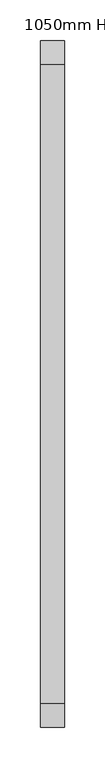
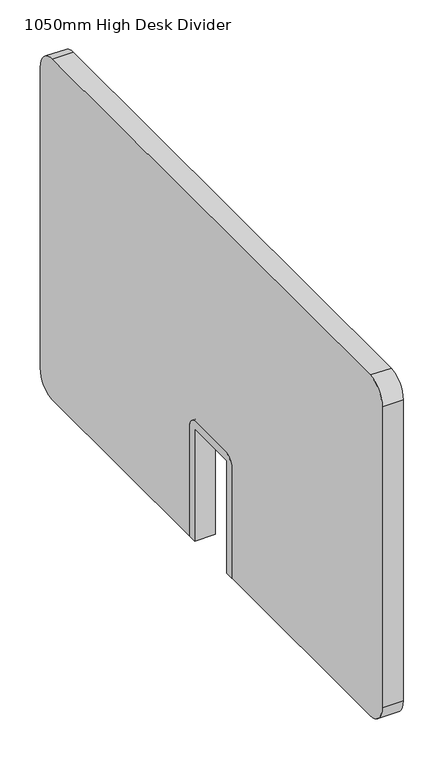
"""IFC4 building model written with IfcOpenShell, lengths in millimetres: furniture geometry, DBLTD_TheSenatorGroup_OffcDsks_Workbase_DeskDivider_FabricScreen : 1050mm High Desk Divider."""

from ifc_helpers import new_model, si_unit, point, frame, frame_2d, origin, place, context, project, spatial, polyline, circle_curve, trimmed, segment, composite_curve, outline, extrude, source, transform, mapped, element, save


def furniture_1050mm_high_desk_divider_a7e000da(model_context):
    return source(origin(), model_context, "Body", "SweptSolid", [
        extrude(outline(composite_curve([segment(polyline([(452.100174, 534.9538126), (440.100174, 534.9538126), (440.100174, 704.9999237), (360.100174, 704.9999237), (360.100174, 534.9538126), (348.100174, 534.9538126), (348.100174, 701.9999237)]), True, "CONTINUOUS"), segment(trimmed(circle_curve(frame_2d((363.100174, 701.9999237)), 15.0), [point((348.100174, 701.9999237))], [point((363.100174, 716.9999237))], False, "CARTESIAN"), True, "CONTINUOUS"), segment(polyline([(363.100174, 716.9999237), (437.100174, 716.9999237)]), True, "CONTINUOUS"), segment(trimmed(circle_curve(frame_2d((437.100174, 701.9999237)), 15.0), [point((437.100174, 716.9999237))], [point((452.100174, 701.9999237))], False, "CARTESIAN"), True, "CONTINUOUS"), segment(polyline([(452.100174, 701.9999237), (452.100174, 534.9538126)]), True, "CONTINUOUS")], self_intersect=False)), frame((82.4883308, 0.0, 0.0), z_axis=(1.0, 0.0, 0.0), x_axis=(0.0, 1.0, 0.0)), (0.0, 0.0, 1.0), 29.9356232),
        extrude(outline(composite_curve([segment(trimmed(circle_curve(frame_2d((792.0270271, 1020.0)), 30.0), [point((792.0270271, 1050.0))], [point((822.0270271, 1020.0))], False, "CARTESIAN"), True, "CONTINUOUS"), segment(polyline([(822.0270271, 1020.0), (822.0270271, 564.9538126)]), True, "CONTINUOUS"), segment(trimmed(circle_curve(frame_2d((792.0270271, 564.9538126)), 30.0), [point((822.0270271, 564.9538126))], [point((792.0270271, 534.9538126))], False, "CARTESIAN"), True, "CONTINUOUS"), segment(polyline([(792.0270271, 534.9538126), (452.100174, 534.9538126), (452.100174, 701.9999237)]), True, "CONTINUOUS"), segment(trimmed(circle_curve(frame_2d((437.100174, 701.9999237)), 15.0), [point((452.100174, 701.9999237))], [point((437.100174, 716.9999237))], True, "CARTESIAN"), True, "CONTINUOUS"), segment(polyline([(437.100174, 716.9999237), (363.100174, 716.9999237)]), True, "CONTINUOUS"), segment(trimmed(circle_curve(frame_2d((363.100174, 701.9999237)), 15.0), [point((363.100174, 716.9999237))], [point((348.100174, 701.9999237))], True, "CARTESIAN"), True, "CONTINUOUS"), segment(polyline([(348.100174, 701.9999237), (348.100174, 535.0), (5.100174, 535.0)]), True, "CONTINUOUS"), segment(trimmed(circle_curve(frame_2d((5.100174, 565.0)), 30.0), [point((5.100174, 535.0))], [point((-24.899826, 565.0))], False, "CARTESIAN"), True, "CONTINUOUS"), segment(polyline([(-24.899826, 565.0), (-24.899826, 1020.0)]), True, "CONTINUOUS"), segment(trimmed(circle_curve(frame_2d((5.100174, 1020.0)), 30.0), [point((-24.899826, 1020.0))], [point((5.100174, 1050.0))], False, "CARTESIAN"), True, "CONTINUOUS"), segment(polyline([(5.100174, 1050.0), (792.0270271, 1050.0)]), True, "CONTINUOUS")], self_intersect=False)), frame((82.4883308, 0.0, 0.0), z_axis=(1.0, 0.0, 0.0), x_axis=(0.0, 1.0, 0.0)), (0.0, 0.0, 1.0), 29.9356232),
    ])


if __name__ == "__main__":
    model = new_model("IFC4")
    model_context = context("Model", 3, world=origin())
    ifc_project = project(units=[si_unit("LENGTHUNIT", "METRE", prefix="MILLI")], contexts=[model_context])
    site = spatial("IfcSite", under=ifc_project)
    building = spatial("IfcBuilding", under=site)
    placement = place(None, origin())
    furniture_1050mm_high_desk_divider_shape = furniture_1050mm_high_desk_divider_a7e000da(model_context)
    element("IfcFurniture", 1, ObjectType="DBLTD_TheSenatorGroup_OffcDsks_Workbase_DeskDivider_FabricScreen : 1050mm High Desk Divider", at=placement, inside=building, context=model_context, shape_type="MappedRepresentation", body=[
        mapped(furniture_1050mm_high_desk_divider_shape, transform((0.0, 0.0, 0.0), x_axis=(1.0, 0.0, 0.0), y_axis=(0.0, 1.0, 0.0), z_axis=(0.0, 0.0, 1.0))),
    ])
    save(model, "model.ifc")
